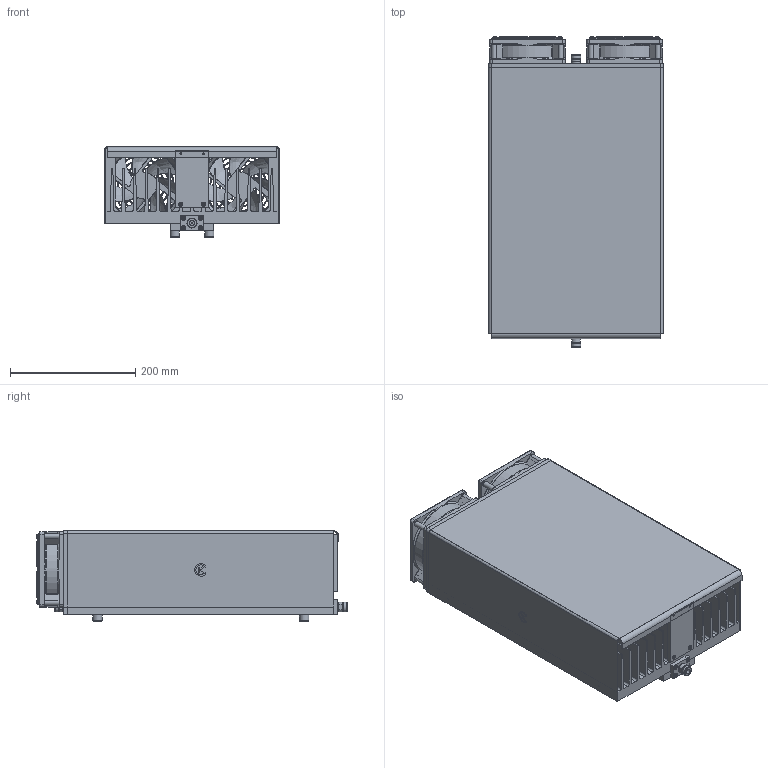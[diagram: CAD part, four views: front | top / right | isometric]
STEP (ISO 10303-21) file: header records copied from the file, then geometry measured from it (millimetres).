
FILE_DESCRIPTION(('STEP AP203'), '1');
FILE_NAME('栖闉罻 1500 鎗', '', ('UNSPECIFIED'), ('UNSPECIFIED'), 'C3D Converter', 'C3D Toolkit', '');
FILE_SCHEMA(('CONFIG_CONTROL_DESIGN'));
Length unit declared in the file: millimetre
Products named in the file (21): -01; Вентилятор 120x120x25; Вентилятор_винт 120х120х25; Вентилятор_основа 120х120х25
Assembly tree (57 placements, depth 3):
  (unnamed)
    (unnamed)
    (unnamed)
    (unnamed)
    (unnamed)
    (unnamed)
    (unnamed)
    -01
    (unnamed)
    Вентилятор 120x120x25  x2
      Вентилятор_винт 120х120х25
      Вентилятор_основа 120х120х25
    (unnamed)  x10
    -01  x6
    (unnamed)
    -01
    (unnamed)  x21
    (unnamed)  x2
    -01  x2
    (unnamed)
    -01
Bounding box: 278 x 495 x 144 mm (x, y, z)
Volume: 4930503.4 mm3; surface area: 1901971.8 mm2
Topology: 57 solids, 57 shells, 3032 faces, 8134 edges, 4954 vertices
Faces by surface type: plane 1181, bspline 816, cylinder 705, torus 190, cone 140
Full cylindrical faces by diameter (mm): 1.66 x2, 2.459 x25, 2.5 x3, 3 x22, 3.04 x2, 3.2 x2, 3.242 x8, 3.5 x8, 4.134 x16, 5 x16, 5.5 x57, 6 x1, 7 x12, 8 x1, 8.06 x2, 8.5 x20, 10 x17, 11.6 x2, 14 x4, 15 x4, 15.87 x2, 16 x4, 20 x6, 23 x2, 35 x2, 38 x2, 42 x2, 50 x2, 53 x2, 65 x2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
Entity records: 83205 total; most frequent: CARTESIAN_POINT 24862, ORIENTED_EDGE 9124, DIRECTION 8088, EDGE_CURVE 4562, AXIS2_PLACEMENT_3D 3084, VERTEX_POINT 3024, EDGE_LOOP 2376, FACE_BOUND 2093
